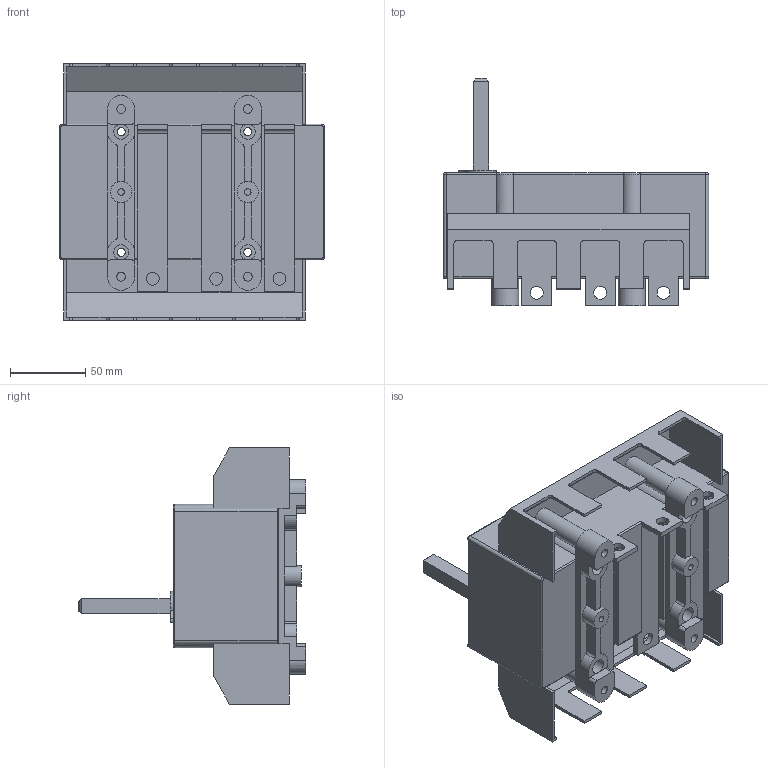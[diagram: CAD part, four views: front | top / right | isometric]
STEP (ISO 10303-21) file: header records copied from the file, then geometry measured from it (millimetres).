
FILE_DESCRIPTION(/* description */ (''),/* implementation_level */ '2;1');
FILE_NAME(/* name */ 'RA250 P3 A z oslona zaciskow.stp',/* time_stamp */ '2021-08-18T08:04:25+02:00',/* author */ (''),/* organization */ (''),/* preprocessor_version */ 'ST-DEVELOPER v18.1',/* originating_system */ 'SIEMENS PLM Software NX 1965',/* authorisation */ '');
FILE_SCHEMA (('AUTOMOTIVE_DESIGN { 1 0 10303 214 3 1 1 1 }'));
Length unit declared in the file: millimetre
Products named in the file (1): RA250 P3 A z oslona zaciskow_stp
Bounding box: 176 x 151 x 169.8 mm (x, y, z)
Volume: 1215539.7 mm3; surface area: 158007.5 mm2
Topology: 1 solids, 1 shells, 307 faces, 877 edges, 570 vertices
Faces by surface type: plane 170, cylinder 125, torus 7, bspline 5
Full cylindrical faces by diameter (mm): 4.3 x2, 5.3 x4, 5.8 x4, 8.5 x6, 10 x12, 13 x4, 14 x2
Entity records: 9842 total; most frequent: CARTESIAN_POINT 1828, DIRECTION 1679, ORIENTED_EDGE 1634, EDGE_CURVE 817, AXIS2_PLACEMENT_3D 575, VERTEX_POINT 544, LINE 529, VECTOR 529
